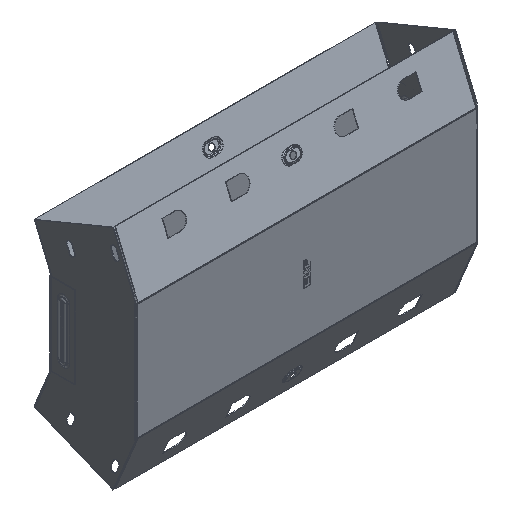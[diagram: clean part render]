
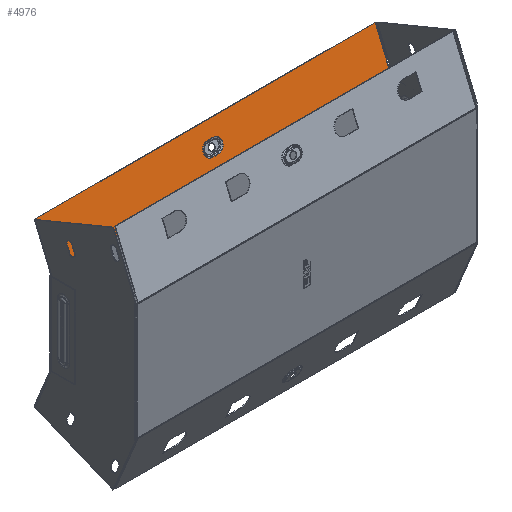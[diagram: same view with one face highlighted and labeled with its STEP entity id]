
A CAD part, isometric view. The second image highlights one B-rep face of the part: STEP entity #4976.
In plain terms, the highlighted planar face has unit normal (0, -0.924, 0.383).
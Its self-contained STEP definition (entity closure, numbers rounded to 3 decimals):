
#153 = VECTOR ( 'NONE', #13931, 1000. ) ;
#236 = CARTESIAN_POINT ( 'NONE',  ( 199., -0.663, 48.49 ) ) ;
#525 = LINE ( 'NONE', #2115, #153 ) ;
#561 = CARTESIAN_POINT ( 'NONE',  ( -3.5, 12.118, 79.347 ) ) ;
#590 = AXIS2_PLACEMENT_3D ( 'NONE', #11402, #10329, #9003 ) ;
#900 = ORIENTED_EDGE ( 'NONE', *, *, #8444, .T. ) ;
#1445 = ORIENTED_EDGE ( 'NONE', *, *, #13405, .T. ) ;
#1938 = EDGE_CURVE ( 'NONE', #3944, #11593, #15107, .T. ) ;
#2050 = DIRECTION ( 'NONE',  ( 0., -0.383, -0.924 ) ) ;
#2115 = CARTESIAN_POINT ( 'NONE',  ( -3.5, 6.303, 65.307 ) ) ;
#2122 = VECTOR ( 'NONE', #6187, 1000. ) ;
#2184 = LINE ( 'NONE', #11970, #14496 ) ;
#2792 = CARTESIAN_POINT ( 'NONE',  ( 3.5, 6.303, 65.307 ) ) ;
#3944 = VERTEX_POINT ( 'NONE', #9481 ) ;
#4500 = DIRECTION ( 'NONE',  ( 0., -0.383, -0.924 ) ) ;
#4705 = EDGE_CURVE ( 'NONE', #14025, #12652, #14421, .T. ) ;
#4745 = VERTEX_POINT ( 'NONE', #2792 ) ;
#4813 = VERTEX_POINT ( 'NONE', #7607 ) ;
#4976 = ADVANCED_FACE ( 'NONE', ( #7968, #5746 ), #5568, .F. ) ;
#5064 = LINE ( 'NONE', #7892, #6550 ) ;
#5568 = PLANE ( 'NONE',  #590 ) ;
#5581 = CARTESIAN_POINT ( 'NONE',  ( 3.5, 9.211, 72.327 ) ) ;
#5746 = FACE_OUTER_BOUND ( 'NONE', #9465, .T. ) ;
#6187 = DIRECTION ( 'NONE',  ( -1., 0., 0. ) ) ;
#6293 = CARTESIAN_POINT ( 'NONE',  ( 199., 18.395, 94.5 ) ) ;
#6381 = VERTEX_POINT ( 'NONE', #14078 ) ;
#6437 = LINE ( 'NONE', #6293, #8856 ) ;
#6550 = VECTOR ( 'NONE', #4500, 1000. ) ;
#6613 = DIRECTION ( 'NONE',  ( 0., -0.383, -0.924 ) ) ;
#6654 = ORIENTED_EDGE ( 'NONE', *, *, #10565, .F. ) ;
#6697 = CARTESIAN_POINT ( 'NONE',  ( 199., 18.395, 94.5 ) ) ;
#6705 = DIRECTION ( 'NONE',  ( 0., -0.924, 0.383 ) ) ;
#6860 = AXIS2_PLACEMENT_3D ( 'NONE', #5581, #13698, #6613 ) ;
#6945 = CARTESIAN_POINT ( 'NONE',  ( -3.5, 6.303, 65.307 ) ) ;
#7607 = CARTESIAN_POINT ( 'NONE',  ( 3.5, 12.118, 79.347 ) ) ;
#7892 = CARTESIAN_POINT ( 'NONE',  ( -199., -0.739, 48.306 ) ) ;
#7953 = EDGE_LOOP ( 'NONE', ( #6654, #14909, #14459, #8430 ) ) ;
#7968 = FACE_BOUND ( 'NONE', #7953, .T. ) ;
#8033 = VERTEX_POINT ( 'NONE', #6697 ) ;
#8430 = ORIENTED_EDGE ( 'NONE', *, *, #14487, .F. ) ;
#8444 = EDGE_CURVE ( 'NONE', #8033, #6381, #6437, .T. ) ;
#8856 = VECTOR ( 'NONE', #14535, 1000. ) ;
#9003 = DIRECTION ( 'NONE',  ( 0., 0.383, 0.924 ) ) ;
#9465 = EDGE_LOOP ( 'NONE', ( #1445, #13577, #13969, #900 ) ) ;
#9481 = CARTESIAN_POINT ( 'NONE',  ( -3.5, 12.118, 79.347 ) ) ;
#10278 = DIRECTION ( 'NONE',  ( 0., -0.383, -0.924 ) ) ;
#10329 = DIRECTION ( 'NONE',  ( 0., 0.924, -0.383 ) ) ;
#10565 = EDGE_CURVE ( 'NONE', #4745, #4813, #12756, .T. ) ;
#10663 = VECTOR ( 'NONE', #13530, 1000. ) ;
#10847 = CARTESIAN_POINT ( 'NONE',  ( 199., -0.663, 48.49 ) ) ;
#11200 = LINE ( 'NONE', #561, #10663 ) ;
#11402 = CARTESIAN_POINT ( 'NONE',  ( 199., -0.739, 48.306 ) ) ;
#11466 = CARTESIAN_POINT ( 'NONE',  ( -3.5, 9.211, 72.327 ) ) ;
#11593 = VERTEX_POINT ( 'NONE', #6945 ) ;
#11970 = CARTESIAN_POINT ( 'NONE',  ( 199., -0.739, 48.306 ) ) ;
#12584 = EDGE_CURVE ( 'NONE', #11593, #4745, #525, .T. ) ;
#12652 = VERTEX_POINT ( 'NONE', #13889 ) ;
#12756 = CIRCLE ( 'NONE', #6860, 7.598 ) ;
#12957 = EDGE_CURVE ( 'NONE', #8033, #14025, #2184, .T. ) ;
#13405 = EDGE_CURVE ( 'NONE', #6381, #12652, #5064, .T. ) ;
#13530 = DIRECTION ( 'NONE',  ( -1., 0., 0. ) ) ;
#13577 = ORIENTED_EDGE ( 'NONE', *, *, #4705, .F. ) ;
#13656 = AXIS2_PLACEMENT_3D ( 'NONE', #11466, #6705, #10278 ) ;
#13698 = DIRECTION ( 'NONE',  ( 0., -0.924, 0.383 ) ) ;
#13889 = CARTESIAN_POINT ( 'NONE',  ( -199., -0.663, 48.49 ) ) ;
#13931 = DIRECTION ( 'NONE',  ( 1., 0., 0. ) ) ;
#13969 = ORIENTED_EDGE ( 'NONE', *, *, #12957, .F. ) ;
#14025 = VERTEX_POINT ( 'NONE', #10847 ) ;
#14078 = CARTESIAN_POINT ( 'NONE',  ( -199., 18.395, 94.5 ) ) ;
#14421 = LINE ( 'NONE', #236, #2122 ) ;
#14459 = ORIENTED_EDGE ( 'NONE', *, *, #1938, .F. ) ;
#14487 = EDGE_CURVE ( 'NONE', #4813, #3944, #11200, .T. ) ;
#14496 = VECTOR ( 'NONE', #2050, 1000. ) ;
#14535 = DIRECTION ( 'NONE',  ( -1., 0., 0. ) ) ;
#14909 = ORIENTED_EDGE ( 'NONE', *, *, #12584, .F. ) ;
#15107 = CIRCLE ( 'NONE', #13656, 7.598 ) ;
